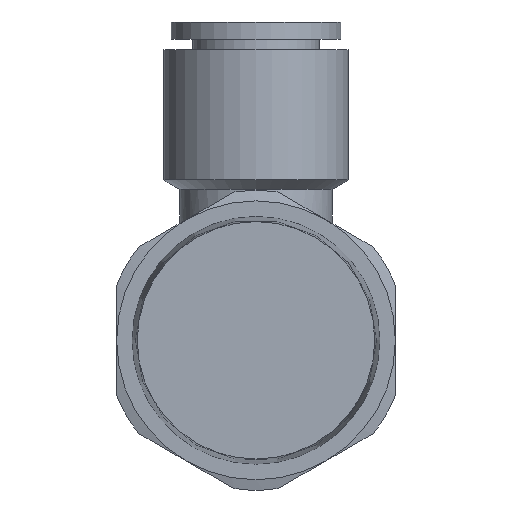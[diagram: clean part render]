
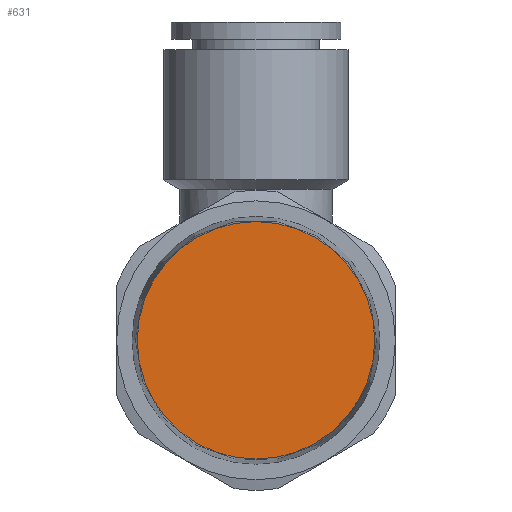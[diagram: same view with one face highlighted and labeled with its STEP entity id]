
A CAD part, front view. The second image highlights one B-rep face of the part: STEP entity #631.
In plain terms, the highlighted planar face has unit normal (0, -1, 0).
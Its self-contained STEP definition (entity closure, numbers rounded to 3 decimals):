
#73=PLANE('',#716);
#219=ORIENTED_EDGE('',*,*,#345,.T.);
#345=EDGE_CURVE('',#409,#409,#446,.T.);
#409=VERTEX_POINT('',#1192);
#446=CIRCLE('',#717,10.221);
#496=EDGE_LOOP('',(#219));
#559=FACE_BOUND('',#496,.T.);
#631=ADVANCED_FACE('',(#559),#73,.F.);
#716=AXIS2_PLACEMENT_3D('',#1190,#874,#875);
#717=AXIS2_PLACEMENT_3D('',#1191,#876,#877);
#874=DIRECTION('',(0.,1.,0.));
#875=DIRECTION('',(-1.,0.,0.));
#876=DIRECTION('',(0.,-1.,0.));
#877=DIRECTION('',(1.,0.,0.));
#1190=CARTESIAN_POINT('',(10.221,-7.1,0.));
#1191=CARTESIAN_POINT('',(0.,-7.1,0.));
#1192=CARTESIAN_POINT('',(10.221,-7.1,0.));
